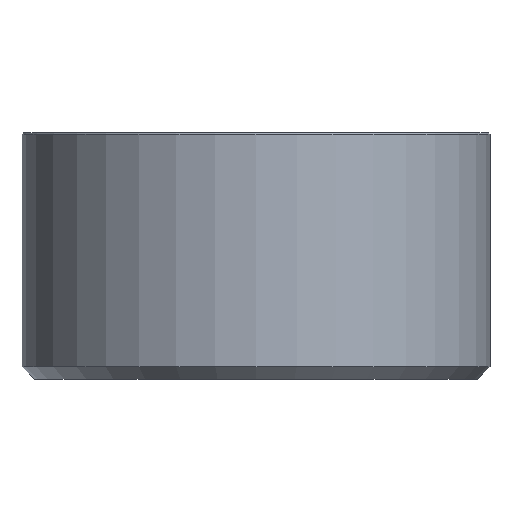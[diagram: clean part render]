
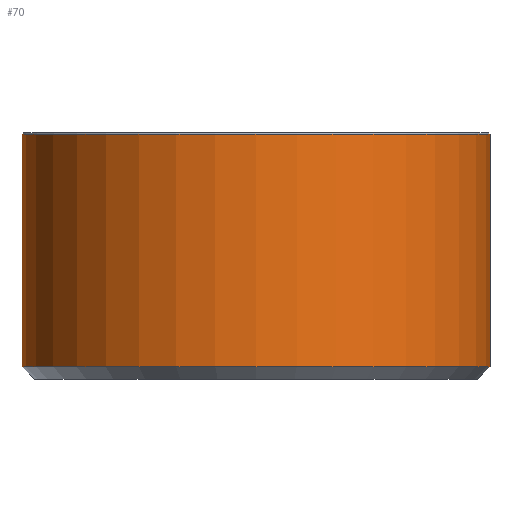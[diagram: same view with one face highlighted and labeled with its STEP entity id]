
A CAD part, front view. The second image highlights one B-rep face of the part: STEP entity #70.
In plain terms, the highlighted cylindrical face has radius 19 mm (diameter 38 mm), a full revolution.
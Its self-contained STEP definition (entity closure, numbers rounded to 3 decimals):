
#52=CYLINDRICAL_SURFACE('',#478,19.);
#70=ADVANCED_FACE('',(#128,#129),#52,.T.);
#128=FACE_BOUND('',#204,.T.);
#129=FACE_BOUND('',#205,.T.);
#204=EDGE_LOOP('',(#280));
#205=EDGE_LOOP('',(#281));
#280=ORIENTED_EDGE('',*,*,#394,.T.);
#281=ORIENTED_EDGE('',*,*,#395,.T.);
#356=VERTEX_POINT('',#714);
#357=VERTEX_POINT('',#716);
#394=EDGE_CURVE('',#356,#356,#432,.T.);
#395=EDGE_CURVE('',#357,#357,#433,.T.);
#432=CIRCLE('',#476,19.);
#433=CIRCLE('',#477,19.);
#476=AXIS2_PLACEMENT_3D('',#713,#573,#574);
#477=AXIS2_PLACEMENT_3D('',#715,#575,#576);
#478=AXIS2_PLACEMENT_3D('',#717,#577,#578);
#573=DIRECTION('',(0.,0.,-1.));
#574=DIRECTION('',(1.,0.,0.));
#575=DIRECTION('',(0.,0.,1.));
#576=DIRECTION('',(-1.,0.,0.));
#577=DIRECTION('',(0.,0.,1.));
#578=DIRECTION('',(1.,0.,0.));
#713=CARTESIAN_POINT('',(0.,0.,19.9));
#714=CARTESIAN_POINT('',(19.,0.,19.9));
#715=CARTESIAN_POINT('',(0.,0.,1.));
#716=CARTESIAN_POINT('',(-19.,0.,1.));
#717=CARTESIAN_POINT('',(0.,0.,0.));
